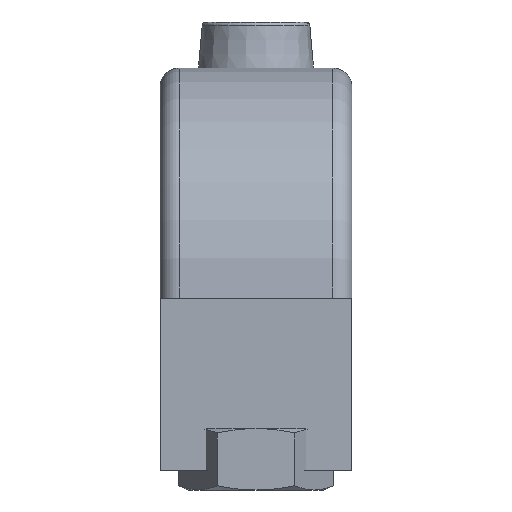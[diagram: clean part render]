
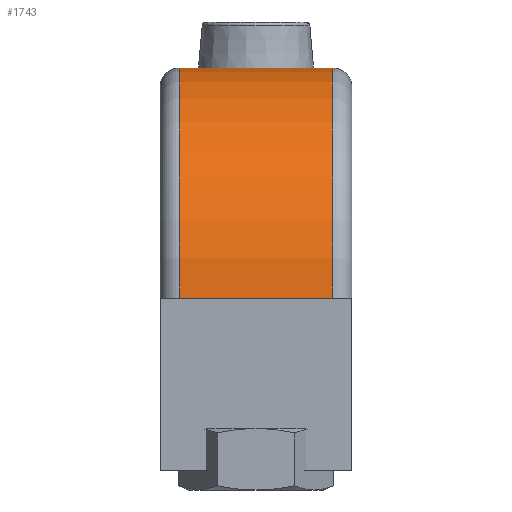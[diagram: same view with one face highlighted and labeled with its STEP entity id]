
A CAD part, front view. The second image highlights one B-rep face of the part: STEP entity #1743.
In plain terms, the highlighted cylindrical face has radius 12.004 mm (diameter 24.008 mm), a partial arc.
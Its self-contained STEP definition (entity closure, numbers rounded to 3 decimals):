
#1644 = VERTEX_POINT('',#1645);
#1645 = CARTESIAN_POINT('',(-3.002,0.,9.));
#1651 = EDGE_CURVE('',#1652,#1644,#1654,.T.);
#1652 = VERTEX_POINT('',#1653);
#1653 = CARTESIAN_POINT('',(-3.002,0.,1.));
#1654 = LINE('',#1655,#1656);
#1655 = CARTESIAN_POINT('',(-3.002,0.,0.));
#1656 = VECTOR('',#1657,1.);
#1657 = DIRECTION('',(0.,0.,1.));
#1743 = ADVANCED_FACE('',(#1744),#1771,.T.);
#1744 = FACE_BOUND('',#1745,.F.);
#1745 = EDGE_LOOP('',(#1746,#1756,#1763,#1764));
#1746 = ORIENTED_EDGE('',*,*,#1747,.T.);
#1747 = EDGE_CURVE('',#1748,#1750,#1752,.T.);
#1748 = VERTEX_POINT('',#1749);
#1749 = CARTESIAN_POINT('',(9.003,12.004,1.));
#1750 = VERTEX_POINT('',#1751);
#1751 = CARTESIAN_POINT('',(9.003,12.004,9.));
#1752 = LINE('',#1753,#1754);
#1753 = CARTESIAN_POINT('',(9.003,12.004,0.));
#1754 = VECTOR('',#1755,1.);
#1755 = DIRECTION('',(0.,0.,1.));
#1756 = ORIENTED_EDGE('',*,*,#1757,.F.);
#1757 = EDGE_CURVE('',#1644,#1750,#1758,.T.);
#1758 = CIRCLE('',#1759,12.004);
#1759 = AXIS2_PLACEMENT_3D('',#1760,#1761,#1762);
#1760 = CARTESIAN_POINT('',(9.002,0.,9.));
#1761 = DIRECTION('',(0.,0.,-1.));
#1762 = DIRECTION('',(-1.,0.,0.));
#1763 = ORIENTED_EDGE('',*,*,#1651,.F.);
#1764 = ORIENTED_EDGE('',*,*,#1765,.T.);
#1765 = EDGE_CURVE('',#1652,#1748,#1766,.T.);
#1766 = CIRCLE('',#1767,12.004);
#1767 = AXIS2_PLACEMENT_3D('',#1768,#1769,#1770);
#1768 = CARTESIAN_POINT('',(9.002,0.,1.));
#1769 = DIRECTION('',(0.,0.,-1.));
#1770 = DIRECTION('',(-1.,0.,0.));
#1771 = CYLINDRICAL_SURFACE('',#1772,12.004);
#1772 = AXIS2_PLACEMENT_3D('',#1773,#1774,#1775);
#1773 = CARTESIAN_POINT('',(9.002,0.,0.));
#1774 = DIRECTION('',(0.,0.,-1.));
#1775 = DIRECTION('',(1.,0.,0.));
